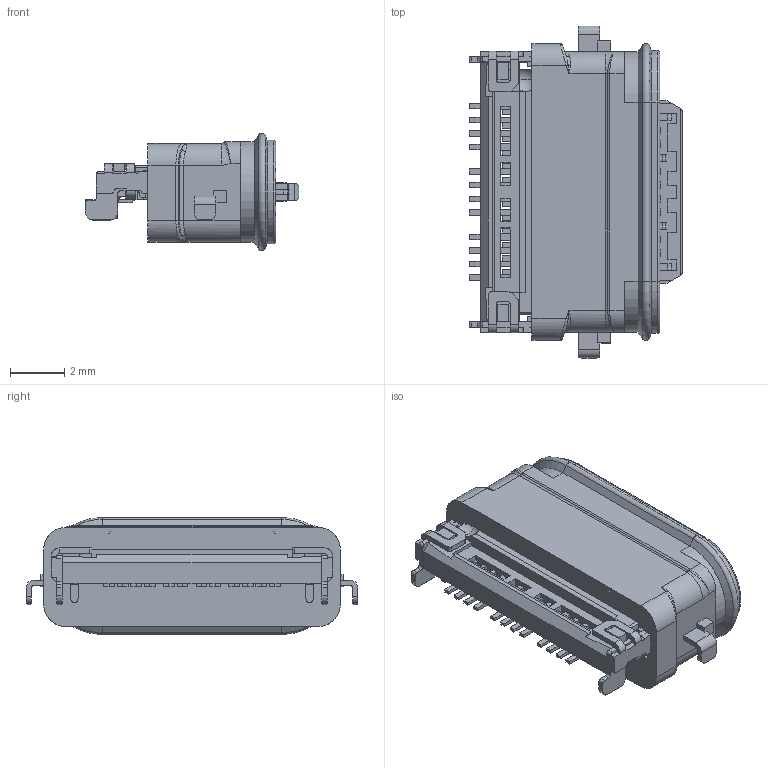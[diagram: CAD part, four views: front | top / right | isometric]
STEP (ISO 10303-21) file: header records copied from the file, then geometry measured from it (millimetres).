
FILE_DESCRIPTION((''),'2;1');
FILE_NAME('C12401914','2019-02-27T',('dave.ye'),(''),'PRO/ENGINEER BY PARAMETRIC TECHNOLOGY CORPORATION, 2011490','PRO/ENGINEER BY PARAMETRIC TECHNOLOGY CORPORATION, 2011490','');
FILE_SCHEMA(('AUTOMOTIVE_DESIGN { 1 0 10303 214 1 1 1 1 }'));
Products named in the file (1): C12401914
Bounding box: 7.86 x 12.2 x 4.3 mm (x, y, z)
Volume: 114.9 mm3; surface area: 1096.9 mm2
Topology: 1 solids, 7 shells, 4352 faces, 13373 edges, 8577 vertices
Faces by surface type: plane 3369, cylinder 880, cone 39, bspline 36, sphere 18, torus 8, extrusion 2
Entity records: 184272 total; most frequent: CARTESIAN_POINT 29179, ORIENTED_EDGE 26710, DIRECTION 23580, EDGE_CURVE 13355, VECTOR 11098, LINE 11096, VERTEX_POINT 8579, PRESENTATION_STYLE_ASSIGNMENT 7929
